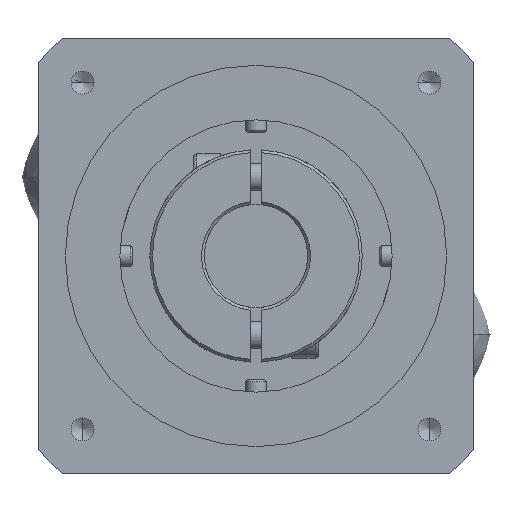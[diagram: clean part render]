
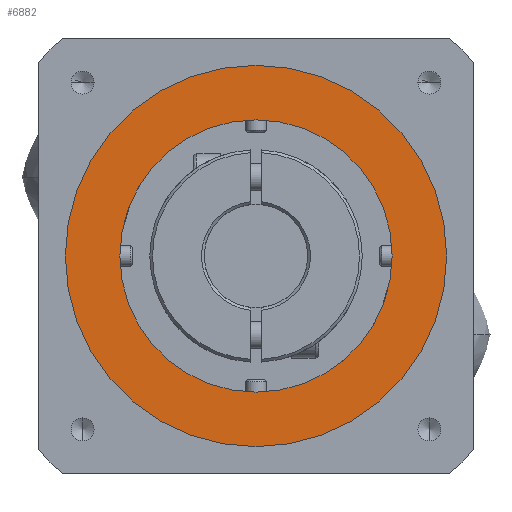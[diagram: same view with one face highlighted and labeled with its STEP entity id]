
A CAD part, left-side view. The second image highlights one B-rep face of the part: STEP entity #6882.
In plain terms, the highlighted planar face has unit normal (-1, 0, 0) as drawn and (0, 0, 1) by its records, which use the part's own axes.
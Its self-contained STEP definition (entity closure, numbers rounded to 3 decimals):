
#17 = CARTESIAN_POINT ( 'NONE',  ( 0., 0., 33.5 ) ) ;
#68 = VERTEX_POINT ( 'NONE', #1534 ) ;
#74 = EDGE_CURVE ( 'NONE', #68, #5457, #3670, .T. ) ;
#207 = CARTESIAN_POINT ( 'NONE',  ( 0., 0., 33.5 ) ) ;
#280 = ORIENTED_EDGE ( 'NONE', *, *, #405, .T. ) ;
#370 = CARTESIAN_POINT ( 'NONE',  ( 0., 0., 33.5 ) ) ;
#405 = EDGE_CURVE ( 'NONE', #7913, #1805, #6421, .T. ) ;
#530 = CARTESIAN_POINT ( 'NONE',  ( 35., 0., 33.5 ) ) ;
#546 = CARTESIAN_POINT ( 'NONE',  ( -25., 0., 33.5 ) ) ;
#1291 = CIRCLE ( 'NONE', #7598, 35. ) ;
#1507 = CARTESIAN_POINT ( 'NONE',  ( 0., 0., 33.5 ) ) ;
#1534 = CARTESIAN_POINT ( 'NONE',  ( 25., 0., 33.5 ) ) ;
#1644 = AXIS2_PLACEMENT_3D ( 'NONE', #1507, #7519, #2123 ) ;
#1805 = VERTEX_POINT ( 'NONE', #530 ) ;
#1844 = ORIENTED_EDGE ( 'NONE', *, *, #4440, .T. ) ;
#1891 = FACE_BOUND ( 'NONE', #4398, .T. ) ;
#2123 = DIRECTION ( 'NONE',  ( 1., 0., 0. ) ) ;
#2276 = DIRECTION ( 'NONE',  ( 0., 0., -1. ) ) ;
#2767 = CIRCLE ( 'NONE', #8148, 25. ) ;
#2882 = CARTESIAN_POINT ( 'NONE',  ( -35., 0., 33.5 ) ) ;
#3036 = EDGE_LOOP ( 'NONE', ( #1844, #280 ) ) ;
#3354 = DIRECTION ( 'NONE',  ( 1., 0., 0. ) ) ;
#3427 = DIRECTION ( 'NONE',  ( 1., 0., 0. ) ) ;
#3670 = CIRCLE ( 'NONE', #1644, 25. ) ;
#3713 = DIRECTION ( 'NONE',  ( 0., 0., 1. ) ) ;
#3715 = ORIENTED_EDGE ( 'NONE', *, *, #74, .T. ) ;
#3967 = EDGE_CURVE ( 'NONE', #5457, #68, #2767, .T. ) ;
#4398 = EDGE_LOOP ( 'NONE', ( #3715, #7681 ) ) ;
#4440 = EDGE_CURVE ( 'NONE', #1805, #7913, #1291, .T. ) ;
#5036 = DIRECTION ( 'NONE',  ( 1., 0., 0. ) ) ;
#5437 = DIRECTION ( 'NONE',  ( 0., 0., 1. ) ) ;
#5457 = VERTEX_POINT ( 'NONE', #546 ) ;
#6421 = CIRCLE ( 'NONE', #7084, 35. ) ;
#6882 = ADVANCED_FACE ( 'NONE', ( #7753, #1891 ), #7357, .T. ) ;
#6934 = DIRECTION ( 'NONE',  ( 1., 0., 0. ) ) ;
#6966 = CARTESIAN_POINT ( 'NONE',  ( 0., 0., 33.5 ) ) ;
#7084 = AXIS2_PLACEMENT_3D ( 'NONE', #370, #3713, #5036 ) ;
#7357 = PLANE ( 'NONE',  #7431 ) ;
#7431 = AXIS2_PLACEMENT_3D ( 'NONE', #17, #5437, #3354 ) ;
#7461 = DIRECTION ( 'NONE',  ( 0., 0., 1. ) ) ;
#7519 = DIRECTION ( 'NONE',  ( 0., 0., -1. ) ) ;
#7598 = AXIS2_PLACEMENT_3D ( 'NONE', #207, #7461, #3427 ) ;
#7681 = ORIENTED_EDGE ( 'NONE', *, *, #3967, .T. ) ;
#7753 = FACE_OUTER_BOUND ( 'NONE', #3036, .T. ) ;
#7913 = VERTEX_POINT ( 'NONE', #2882 ) ;
#8148 = AXIS2_PLACEMENT_3D ( 'NONE', #6966, #2276, #6934 ) ;
